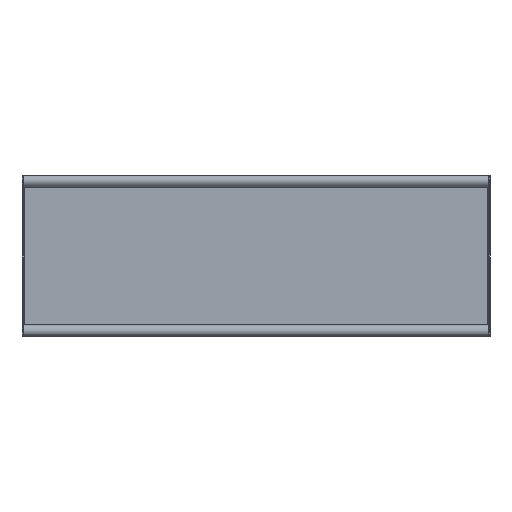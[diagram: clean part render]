
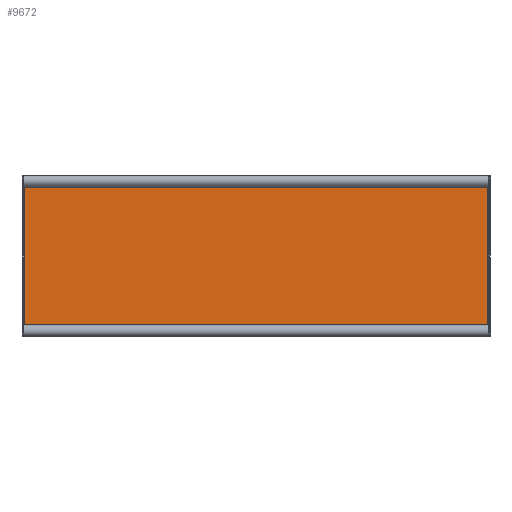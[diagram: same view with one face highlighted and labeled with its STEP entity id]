
A CAD part, front view. The second image highlights one B-rep face of the part: STEP entity #9672.
In plain terms, the highlighted planar face has unit normal (0, -1, 0).
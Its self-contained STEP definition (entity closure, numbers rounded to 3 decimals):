
#366 = DIRECTION ( 'NONE',  ( 1., 0., 0. ) ) ;
#560 = AXIS2_PLACEMENT_3D ( 'NONE', #1301, #8711, #6550 ) ;
#612 = LINE ( 'NONE', #8006, #6961 ) ;
#757 = DIRECTION ( 'NONE',  ( 0., -1., 0. ) ) ;
#807 = CARTESIAN_POINT ( 'NONE',  ( -399., -2., 136.5 ) ) ;
#946 = LINE ( 'NONE', #5544, #4738 ) ;
#1053 = CARTESIAN_POINT ( 'NONE',  ( 396., -2., 132.5 ) ) ;
#1194 = LINE ( 'NONE', #2029, #9395 ) ;
#1276 = FACE_OUTER_BOUND ( 'NONE', #3968, .T. ) ;
#1301 = CARTESIAN_POINT ( 'NONE',  ( 399., -2., 136.5 ) ) ;
#1412 = DIRECTION ( 'NONE',  ( 0., 0., 1. ) ) ;
#1840 = CIRCLE ( 'NONE', #2158, 5. ) ;
#2029 = CARTESIAN_POINT ( 'NONE',  ( -399., -2., -133.5 ) ) ;
#2031 = CARTESIAN_POINT ( 'NONE',  ( 396., -2., -132.5 ) ) ;
#2158 = AXIS2_PLACEMENT_3D ( 'NONE', #9551, #8070, #5872 ) ;
#2389 = VERTEX_POINT ( 'NONE', #6758 ) ;
#2401 = CARTESIAN_POINT ( 'NONE',  ( -399., -2., -136.5 ) ) ;
#2508 = CARTESIAN_POINT ( 'NONE',  ( -396., -2., 132.5 ) ) ;
#2926 = CIRCLE ( 'NONE', #3744, 5. ) ;
#3045 = EDGE_CURVE ( 'NONE', #6466, #8055, #2926, .T. ) ;
#3140 = AXIS2_PLACEMENT_3D ( 'NONE', #6471, #3574, #9653 ) ;
#3323 = DIRECTION ( 'NONE',  ( 0., 0., 1. ) ) ;
#3470 = CARTESIAN_POINT ( 'NONE',  ( 395., -2., -133.5 ) ) ;
#3478 = PLANE ( 'NONE',  #3140 ) ;
#3574 = DIRECTION ( 'NONE',  ( 0., 1., 0. ) ) ;
#3744 = AXIS2_PLACEMENT_3D ( 'NONE', #807, #757, #1412 ) ;
#3857 = CARTESIAN_POINT ( 'NONE',  ( -395., -2., 133.5 ) ) ;
#3968 = EDGE_LOOP ( 'NONE', ( #6102, #7432, #8742, #8772, #6634, #7582, #8659, #5454 ) ) ;
#3989 = VERTEX_POINT ( 'NONE', #1053 ) ;
#4713 = AXIS2_PLACEMENT_3D ( 'NONE', #2401, #5465, #3323 ) ;
#4738 = VECTOR ( 'NONE', #8610, 1000. ) ;
#5454 = ORIENTED_EDGE ( 'NONE', *, *, #9048, .T. ) ;
#5465 = DIRECTION ( 'NONE',  ( 0., -1., 0. ) ) ;
#5544 = CARTESIAN_POINT ( 'NONE',  ( -396., -2., -136.5 ) ) ;
#5673 = CARTESIAN_POINT ( 'NONE',  ( -396., -2., -132.5 ) ) ;
#5872 = DIRECTION ( 'NONE',  ( 0., 0., 1. ) ) ;
#5910 = EDGE_CURVE ( 'NONE', #9469, #6195, #1840, .T. ) ;
#6102 = ORIENTED_EDGE ( 'NONE', *, *, #5910, .F. ) ;
#6110 = EDGE_CURVE ( 'NONE', #6774, #6485, #9221, .T. ) ;
#6195 = VERTEX_POINT ( 'NONE', #3470 ) ;
#6382 = CARTESIAN_POINT ( 'NONE',  ( -399., -2., 133.5 ) ) ;
#6466 = VERTEX_POINT ( 'NONE', #2508 ) ;
#6471 = CARTESIAN_POINT ( 'NONE',  ( -399., -2., -136.5 ) ) ;
#6485 = VERTEX_POINT ( 'NONE', #5673 ) ;
#6550 = DIRECTION ( 'NONE',  ( 0., 0., 1. ) ) ;
#6633 = DIRECTION ( 'NONE',  ( 1., 0., 0. ) ) ;
#6634 = ORIENTED_EDGE ( 'NONE', *, *, #3045, .F. ) ;
#6758 = CARTESIAN_POINT ( 'NONE',  ( 395., -2., 133.5 ) ) ;
#6774 = VERTEX_POINT ( 'NONE', #9073 ) ;
#6961 = VECTOR ( 'NONE', #7357, 1000. ) ;
#7217 = LINE ( 'NONE', #6382, #9724 ) ;
#7357 = DIRECTION ( 'NONE',  ( 0., 0., 1. ) ) ;
#7432 = ORIENTED_EDGE ( 'NONE', *, *, #7690, .T. ) ;
#7438 = EDGE_CURVE ( 'NONE', #2389, #3989, #9206, .T. ) ;
#7582 = ORIENTED_EDGE ( 'NONE', *, *, #8974, .F. ) ;
#7690 = EDGE_CURVE ( 'NONE', #9469, #3989, #612, .T. ) ;
#8006 = CARTESIAN_POINT ( 'NONE',  ( 396., -2., -136.5 ) ) ;
#8055 = VERTEX_POINT ( 'NONE', #3857 ) ;
#8070 = DIRECTION ( 'NONE',  ( 0., -1., 0. ) ) ;
#8432 = EDGE_CURVE ( 'NONE', #8055, #2389, #7217, .T. ) ;
#8610 = DIRECTION ( 'NONE',  ( 0., 0., 1. ) ) ;
#8659 = ORIENTED_EDGE ( 'NONE', *, *, #6110, .F. ) ;
#8711 = DIRECTION ( 'NONE',  ( 0., -1., 0. ) ) ;
#8742 = ORIENTED_EDGE ( 'NONE', *, *, #7438, .F. ) ;
#8772 = ORIENTED_EDGE ( 'NONE', *, *, #8432, .F. ) ;
#8974 = EDGE_CURVE ( 'NONE', #6485, #6466, #946, .T. ) ;
#9048 = EDGE_CURVE ( 'NONE', #6774, #6195, #1194, .T. ) ;
#9073 = CARTESIAN_POINT ( 'NONE',  ( -395., -2., -133.5 ) ) ;
#9206 = CIRCLE ( 'NONE', #560, 5. ) ;
#9221 = CIRCLE ( 'NONE', #4713, 5. ) ;
#9395 = VECTOR ( 'NONE', #6633, 1000. ) ;
#9469 = VERTEX_POINT ( 'NONE', #2031 ) ;
#9551 = CARTESIAN_POINT ( 'NONE',  ( 399., -2., -136.5 ) ) ;
#9653 = DIRECTION ( 'NONE',  ( 0., 0., 1. ) ) ;
#9672 = ADVANCED_FACE ( 'NONE', ( #1276 ), #3478, .F. ) ;
#9724 = VECTOR ( 'NONE', #366, 1000. ) ;
